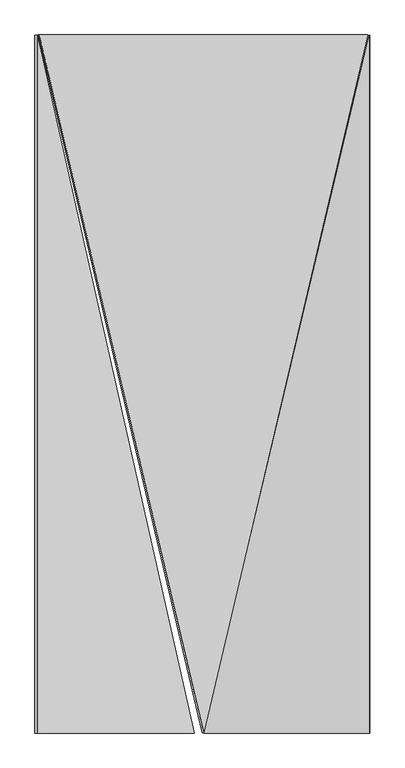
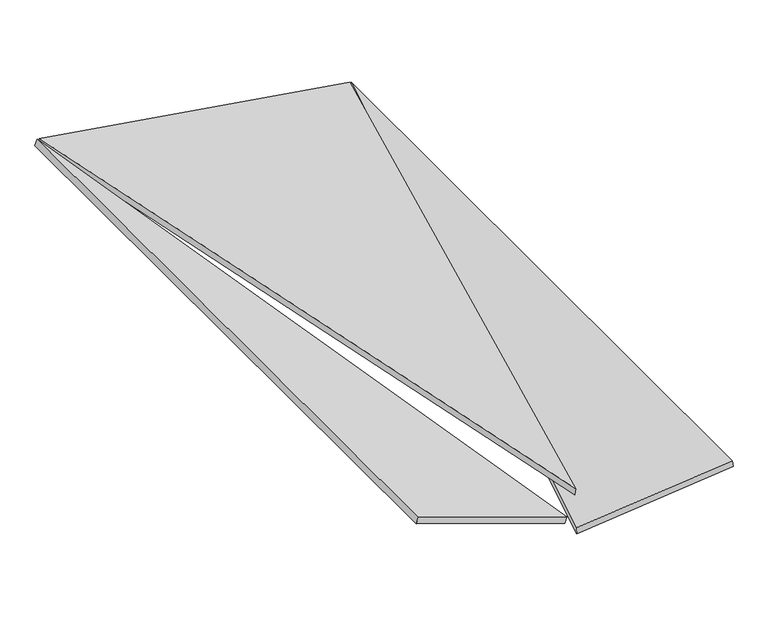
"""IFC4 building model written with IfcOpenShell, lengths in millimetres: proxy geometry, panel sufitowy 6 : panel sufitowy 6."""

from ifc_helpers import new_model, si_unit, frame, origin, place, context, project, spatial, polyline, outline, extrude, source, transform, mapped, element, save


def generic_models_6d9f846d(model_context):
    return source(origin(), model_context, "Body", "SweptSolid", [
        extrude(outline(polyline([(-900.9098917, 0.0), (1235.4098448, 0.0), (1006.1909889, -962.7191946), (-900.9098917, 0.0)])), frame((541.6903878, -1457.4151922, 1098.6181655), z_axis=(0.15643446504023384, 0.0, 0.9876883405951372), x_axis=(-0.22876889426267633, 0.9728062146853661, 0.036233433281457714)), (0.0, 0.0, 1.0), 20.0),
        extrude(outline(polyline([(-127.4999999, 0.0), (-622.5, 0.0), (-127.4999999, 2079.0), (-127.4999999, 0.0)])), frame((1373.0986032, -2335.0, 1000.3468109), z_axis=(-0.10452846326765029, 0.0, 0.9945218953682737), x_axis=(0.9945218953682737, 0.0, 0.10452846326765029)), (0.0, 0.0, 1.0), 20.0),
        extrude(outline(polyline([(-127.5, 0.0), (-127.5, -2079.0), (-622.5, 0.0), (-127.5, 0.0)])), frame((128.1782192, -2335.0, 1186.5281812), z_axis=(0.3255681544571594, 0.0, 0.945518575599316), x_axis=(-0.945518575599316, 0.0, 0.3255681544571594)), (0.0, 0.0, 1.0), 20.0),
    ])


if __name__ == "__main__":
    model = new_model("IFC4")
    model_context = context("Model", 3, world=origin())
    ifc_project = project(units=[si_unit("LENGTHUNIT", "METRE", prefix="MILLI")], contexts=[model_context])
    site = spatial("IfcSite", under=ifc_project)
    building = spatial("IfcBuilding", under=site)
    placement = place(None, origin())
    generic_models_shape = generic_models_6d9f846d(model_context)
    element("IfcBuildingElementProxy", 1, Name="panel sufitowy 6 : panel sufitowy 6", ObjectType="panel sufitowy 6 : panel sufitowy 6", at=placement, inside=building, context=model_context, shape_type="MappedRepresentation", body=[
        mapped(generic_models_shape, transform((0.0, 0.0, 0.0), x_axis=(1.0, 0.0, 0.0), y_axis=(0.0, 1.0, 0.0), z_axis=(0.0, 0.0, 1.0))),
    ])
    save(model, "model.ifc")
